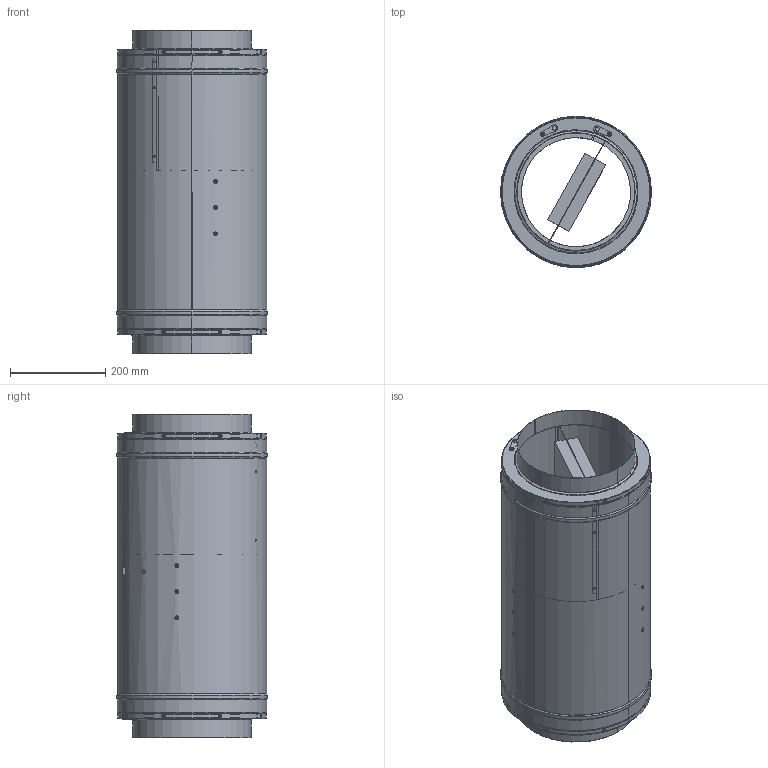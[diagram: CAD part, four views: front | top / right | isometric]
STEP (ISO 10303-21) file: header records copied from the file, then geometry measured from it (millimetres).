
FILE_DESCRIPTION (( 'STEP AP203' ), '1' );
FILE_NAME ('147500_02_ELIX010AC1S_step.step', '2022-06-14T06:01:14', ( '' ), ( '' ), 'SwSTEP 2.0', 'SolidWorks 2021', '' );
FILE_SCHEMA (( 'CONFIG_CONTROL_DESIGN' ));
Length unit declared in the file: millimetre
Products named in the file (1): 147500_02_ELIX010AC1S_step
Bounding box: 317.8 x 317.8 x 680 mm (x, y, z)
Surface area: 2382659.5 mm2 (no closed solid volume)
Topology: 0 solids, 54 shells, 292 faces, 1143 edges, 886 vertices
Faces by surface type: cylinder 145, plane 73, torus 38, bspline 24, cone 12
Entity records: 17394 total; most frequent: CARTESIAN_POINT 8209, DIRECTION 1789, ORIENTED_EDGE 1595, EDGE_CURVE 1143, VERTEX_POINT 886, AXIS2_PLACEMENT_3D 730, CIRCLE 461, EDGE_LOOP 426
